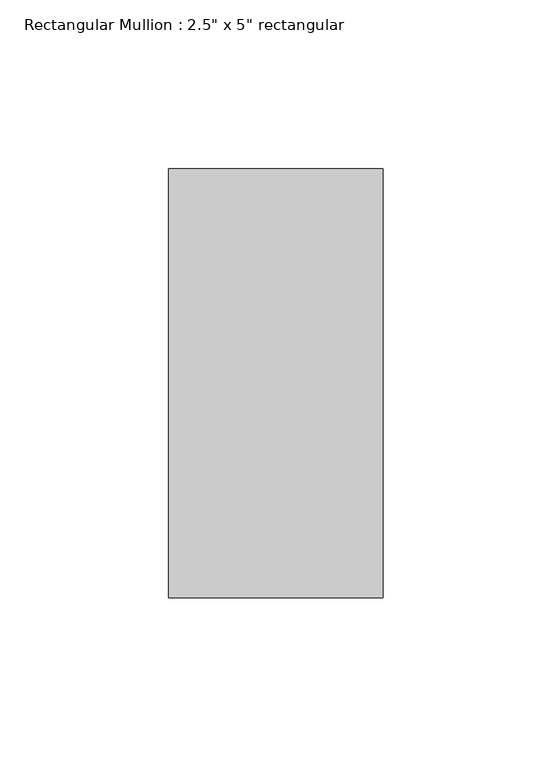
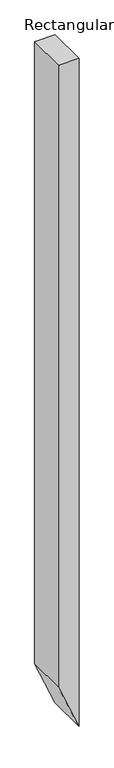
"""IFC4 building model written with IfcOpenShell, lengths in millimetres: member geometry."""

from ifc_helpers import new_model, si_unit, frame, origin, place, context, project, spatial, polyline, outline, extrude, source, transform, mapped, element, save


def member_63bf33d2(model_context):
    return source(origin(), model_context, "Body", "SweptSolid", [
        extrude(outline(polyline([(0.0, 0.0), (0.0, -63.5), (-2035.729959, -63.5), (-2185.8060871, 0.0), (0.0, 0.0)])), frame((0.0, -63.5, 0.0), z_axis=(0.0, 1.0, 0.0), x_axis=(0.0, 0.0, 1.0)), (0.0, 0.0, 1.0), 127.0),
    ])


if __name__ == "__main__":
    model = new_model("IFC4")
    model_context = context("Model", 3, world=origin())
    ifc_project = project(units=[si_unit("LENGTHUNIT", "METRE", prefix="MILLI")], contexts=[model_context])
    site = spatial("IfcSite", under=ifc_project)
    building = spatial("IfcBuilding", under=site)
    placement = place(None, origin())
    member_shape = member_63bf33d2(model_context)
    element("IfcMember", 1, ObjectType="Rectangular Mullion : 2.5\" x 5\" rectangular", at=placement, inside=building, context=model_context, shape_type="MappedRepresentation", body=[
        mapped(member_shape, transform((0.0, 0.0, 0.0), x_axis=(1.0, 0.0, 0.0), y_axis=(0.0, 1.0, 0.0), z_axis=(0.0, 0.0, 1.0))),
    ])
    save(model, "model.ifc")
